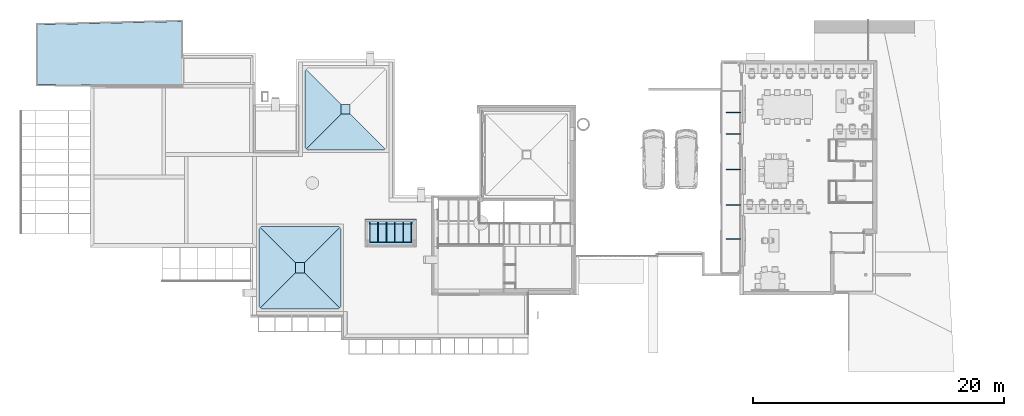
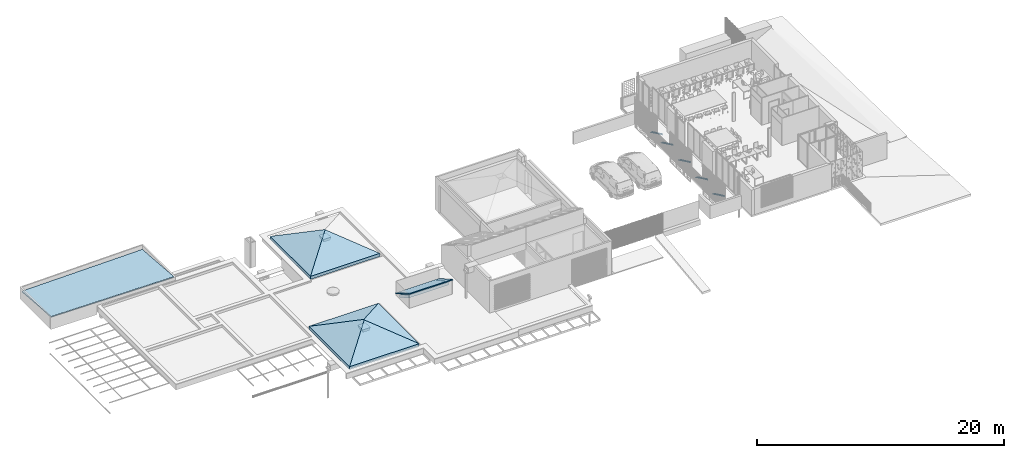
# One storey, part 21 of 51: 13 slabs, 5 beams.
"""IFC2X3 building model written with IfcOpenShell, lengths in metres."""

from ifc_helpers import new_model, entity, si_unit, converted_unit, derived_unit, direction, frame, origin, place, context, subcontext, project, spatial, faceted_brep, material, layer, layer_set, layer_usage, type_object, element, save


model = new_model("IFC2X3")

# Units and contexts
model_context = context("Model", 3, precision=1e-05, world=origin(), true_north=direction((6.123031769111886e-17, 1.0)))
body_context = subcontext(model_context, "Body", "Model", "MODEL_VIEW")
ifc_project = project(units=[si_unit("LENGTHUNIT", "METRE"), si_unit("AREAUNIT", "SQUARE_METRE"), si_unit("VOLUMEUNIT", "CUBIC_METRE"), converted_unit("PLANEANGLEUNIT", "DEGREE", entity("IfcRatioMeasure", 0.017453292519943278), si_unit("PLANEANGLEUNIT", "RADIAN"), dimensions=[0, 0, 0, 0, 0, 0, 0]), si_unit("MASSUNIT", "GRAM", prefix="KILO"), derived_unit("MASSDENSITYUNIT", [(si_unit("MASSUNIT", "GRAM", prefix="KILO"), 1), (si_unit("LENGTHUNIT", "METRE"), -3)]), derived_unit("MOMENTOFINERTIAUNIT", [(si_unit("LENGTHUNIT", "METRE"), 4)]), si_unit("TIMEUNIT", "SECOND"), si_unit("FREQUENCYUNIT", "HERTZ"), si_unit("THERMODYNAMICTEMPERATUREUNIT", "DEGREE_CELSIUS"), derived_unit("THERMALTRANSMITTANCEUNIT", [(si_unit("MASSUNIT", "GRAM", prefix="KILO"), 1), (si_unit("THERMODYNAMICTEMPERATUREUNIT", "KELVIN"), -1), (si_unit("TIMEUNIT", "SECOND"), -3)]), derived_unit("THERMALCONDUCTANCEUNIT", [(si_unit("MASSUNIT", "GRAM", prefix="KILO"), 1), (si_unit("LENGTHUNIT", "METRE"), 1), (si_unit("THERMODYNAMICTEMPERATUREUNIT", "KELVIN"), -1), (si_unit("TIMEUNIT", "SECOND"), -3)]), derived_unit("VOLUMETRICFLOWRATEUNIT", [(si_unit("LENGTHUNIT", "METRE"), 3), (si_unit("TIMEUNIT", "SECOND"), -1)]), derived_unit("MASSFLOWRATEUNIT", [(si_unit("MASSUNIT", "GRAM", prefix="KILO"), 1), (si_unit("TIMEUNIT", "SECOND"), -1)]), derived_unit("ROTATIONALFREQUENCYUNIT", [(si_unit("TIMEUNIT", "SECOND"), -1)]), si_unit("ELECTRICCURRENTUNIT", "AMPERE"), si_unit("ELECTRICVOLTAGEUNIT", "VOLT"), si_unit("POWERUNIT", "WATT"), si_unit("FORCEUNIT", "NEWTON", prefix="KILO"), si_unit("ILLUMINANCEUNIT", "LUX"), si_unit("LUMINOUSFLUXUNIT", "LUMEN"), si_unit("LUMINOUSINTENSITYUNIT", "CANDELA"), derived_unit("USERDEFINED", [(si_unit("MASSUNIT", "GRAM", prefix="KILO"), -1), (si_unit("LENGTHUNIT", "METRE"), -2), (si_unit("TIMEUNIT", "SECOND"), 3), (si_unit("LUMINOUSFLUXUNIT", "LUMEN"), 1)]), derived_unit("USERDEFINED", [(si_unit("MASSUNIT", "GRAM", prefix="KILO"), 1), (si_unit("LENGTHUNIT", "METRE"), 3), (si_unit("TIMEUNIT", "SECOND"), -3), (si_unit("ELECTRICCURRENTUNIT", "AMPERE"), -2)]), derived_unit("USERDEFINED", [(si_unit("LENGTHUNIT", "METRE"), 2), (si_unit("TIMEUNIT", "SECOND"), -2)]), derived_unit("SOUNDPOWERUNIT", [(si_unit("MASSUNIT", "GRAM", prefix="KILO"), 1), (si_unit("LENGTHUNIT", "METRE"), 2), (si_unit("TIMEUNIT", "SECOND"), -3)]), derived_unit("SOUNDPRESSUREUNIT", [(si_unit("MASSUNIT", "GRAM", prefix="KILO"), 1), (si_unit("LENGTHUNIT", "METRE"), -1), (si_unit("TIMEUNIT", "SECOND"), -2)]), derived_unit("LINEARVELOCITYUNIT", [(si_unit("LENGTHUNIT", "METRE"), 1), (si_unit("TIMEUNIT", "SECOND"), -1)]), si_unit("PRESSUREUNIT", "PASCAL"), derived_unit("USERDEFINED", [(si_unit("LENGTHUNIT", "METRE"), -2), (si_unit("MASSUNIT", "GRAM", prefix="KILO"), 1), (si_unit("TIMEUNIT", "SECOND"), -2)]), derived_unit("LINEARFORCEUNIT", [(si_unit("MASSUNIT", "GRAM", prefix="KILO"), 1), (si_unit("LENGTHUNIT", "METRE"), 1), (si_unit("TIMEUNIT", "SECOND"), -2), (si_unit("LENGTHUNIT", "METRE"), -1)]), derived_unit("PLANARFORCEUNIT", [(si_unit("MASSUNIT", "GRAM", prefix="KILO"), 1), (si_unit("LENGTHUNIT", "METRE"), 1), (si_unit("TIMEUNIT", "SECOND"), -2), (si_unit("LENGTHUNIT", "METRE"), -2)]), derived_unit("SPECIFICHEATCAPACITYUNIT", [(si_unit("LENGTHUNIT", "METRE"), 2), (si_unit("TIMEUNIT", "SECOND"), -2), (si_unit("THERMODYNAMICTEMPERATUREUNIT", "KELVIN"), -1)]), derived_unit("VAPORPERMEABILITYUNIT", [(si_unit("TIMEUNIT", "SECOND"), 1), (si_unit("LENGTHUNIT", "METRE"), -1)]), derived_unit("DYNAMICVISCOSITYUNIT", [(si_unit("MASSUNIT", "GRAM", prefix="KILO"), 1), (si_unit("LENGTHUNIT", "METRE"), -1), (si_unit("TIMEUNIT", "SECOND"), -1)]), derived_unit("THERMALEXPANSIONCOEFFICIENTUNIT", [(si_unit("THERMODYNAMICTEMPERATUREUNIT", "KELVIN"), -1)])], contexts=[model_context])

# Site, building, storey
site_placement = place(None, origin())
site = spatial("IfcSite", under=ifc_project, at=site_placement, Name="Default", CompositionType="ELEMENT")
building_placement = place(site_placement, origin())
building = spatial("IfcBuilding", under=site, at=building_placement, CompositionType="ELEMENT")
storey_placement = place(building_placement, frame((0.0, 0.0, 3.06)))
storey = spatial("IfcBuildingStorey", under=building, at=storey_placement, Name="ÉTAGE", CompositionType="ELEMENT", Elevation=3.06)

# Beams
ifc_material_1 = material(Name="Métal - Acier")
beam_type_1 = type_object("IfcBeamType", Name="Poutre-019 150874:Poutre-019 150874", PredefinedType="NOTDEFINED")
beam_1_placement = place(storey_placement, frame((140.32075116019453, 12.002209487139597, 0.38181997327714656)))
element("IfcBeam", 1, at=beam_1_placement, inside=storey, type_object=beam_type_1, material=ifc_material_1, Name="Poutre-019", ObjectType="Poutre-019 150874:Poutre-019 150874", context=body_context, shape_type="Brep", body=[
    faceted_brep([(0.19080229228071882, 0.026694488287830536, 0.6581800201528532), (0.19080229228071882, 0.05000008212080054, 0.6581800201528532), (1.1400012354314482, 0.05000008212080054, 0.11015975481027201), (1.1400012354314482, 0.026694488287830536, 0.11015975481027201), (0.009200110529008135, 0.026694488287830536, 0.6581800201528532), (1.1400012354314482, 0.026694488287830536, 0.005311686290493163), (0.009200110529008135, 0.05000008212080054, 0.6581800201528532), (1.1400012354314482, 0.05000008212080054, 0.005311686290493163), (0.0, 0.05000008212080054, 0.6581800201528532), (1.1400012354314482, 0.05000008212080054, 0.0), (0.0, 0.0, 0.6581800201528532), (1.1400012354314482, 0.0, 0.0), (0.009200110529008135, 0.0, 0.6581800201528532), (1.1400012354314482, 0.0, 0.005311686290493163), (0.009200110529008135, 0.023305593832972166, 0.6581800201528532), (1.1400012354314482, 0.023305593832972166, 0.005311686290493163), (0.19080229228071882, 0.023305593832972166, 0.6581800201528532), (1.1400012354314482, 0.023305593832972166, 0.11015975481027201), (0.19080229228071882, 0.0, 0.6581800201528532), (1.1400012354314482, 0.0, 0.11015975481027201), (0.20000240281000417, 0.0, 0.6581800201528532), (1.1400012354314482, 0.0, 0.11547144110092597), (0.20000240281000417, 0.0500000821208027, 0.6581800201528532), (1.1400012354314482, 0.05000008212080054, 0.11547144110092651)], [[[0, 1, 2, 3]], [[4, 0, 3, 5]], [[6, 4, 5, 7]], [[8, 6, 7, 9]], [[10, 8, 9, 11]], [[12, 10, 11, 13]], [[14, 12, 13, 15]], [[16, 14, 15, 17]], [[18, 16, 17, 19]], [[20, 18, 19, 21]], [[22, 20, 21, 23]], [[1, 22, 23, 2]], [[1, 0, 4, 6, 8, 10, 12, 14, 16, 18, 20, 22]], [[3, 2, 23, 21, 19, 17, 15, 13, 11, 9, 7, 5]]]),
])
beam_type_2 = type_object("IfcBeamType", Name="Poutre-019 150807:Poutre-019 150807", PredefinedType="NOTDEFINED")
beam_2_placement = place(storey_placement, frame((140.32075116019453, 14.712209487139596, 0.38181997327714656)))
element("IfcBeam", 2, at=beam_2_placement, inside=storey, type_object=beam_type_2, material=ifc_material_1, Name="Poutre-019", ObjectType="Poutre-019 150807:Poutre-019 150807", context=body_context, shape_type="Brep", body=[
    faceted_brep([(0.19080229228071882, 0.026694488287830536, 0.6581800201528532), (0.19080229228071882, 0.05000008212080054, 0.6581800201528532), (1.1400012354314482, 0.05000008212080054, 0.11015975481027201), (1.1400012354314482, 0.026694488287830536, 0.11015975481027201), (0.009200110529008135, 0.026694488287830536, 0.6581800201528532), (1.1400012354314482, 0.026694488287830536, 0.005311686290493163), (0.009200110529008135, 0.05000008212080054, 0.6581800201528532), (1.1400012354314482, 0.05000008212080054, 0.005311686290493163), (0.0, 0.05000008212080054, 0.6581800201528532), (1.1400012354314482, 0.05000008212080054, 0.0), (0.0, 0.0, 0.6581800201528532), (1.1400012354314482, 0.0, 0.0), (0.009200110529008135, 0.0, 0.6581800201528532), (1.1400012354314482, 0.0, 0.005311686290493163), (0.009200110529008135, 0.023305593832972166, 0.6581800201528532), (1.1400012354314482, 0.023305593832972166, 0.005311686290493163), (0.19080229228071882, 0.023305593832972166, 0.6581800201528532), (1.1400012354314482, 0.023305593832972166, 0.11015975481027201), (0.19080229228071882, 0.0, 0.6581800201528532), (1.1400012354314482, 0.0, 0.11015975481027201), (0.20000240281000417, 0.0, 0.6581800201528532), (1.1400012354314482, 0.0, 0.11547144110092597), (0.20000240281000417, 0.0500000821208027, 0.6581800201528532), (1.1400012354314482, 0.05000008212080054, 0.11547144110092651)], [[[0, 1, 2, 3]], [[4, 0, 3, 5]], [[6, 4, 5, 7]], [[8, 6, 7, 9]], [[10, 8, 9, 11]], [[12, 10, 11, 13]], [[14, 12, 13, 15]], [[16, 14, 15, 17]], [[18, 16, 17, 19]], [[20, 18, 19, 21]], [[22, 20, 21, 23]], [[1, 22, 23, 2]], [[1, 0, 4, 6, 8, 10, 12, 14, 16, 18, 20, 22]], [[3, 2, 23, 21, 19, 17, 15, 13, 11, 9, 7, 5]]]),
])
beam_type_3 = type_object("IfcBeamType", Name="Poutre-019 150740:Poutre-019 150740", PredefinedType="NOTDEFINED")
beam_3_placement = place(storey_placement, frame((140.32075116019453, 17.5372094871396, 0.38181997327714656)))
element("IfcBeam", 3, at=beam_3_placement, inside=storey, type_object=beam_type_3, material=ifc_material_1, Name="Poutre-019", ObjectType="Poutre-019 150740:Poutre-019 150740", context=body_context, shape_type="Brep", body=[
    faceted_brep([(0.19080229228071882, 0.026694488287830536, 0.6581800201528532), (0.19080229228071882, 0.05000008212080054, 0.6581800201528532), (1.1400012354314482, 0.05000008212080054, 0.11015975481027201), (1.1400012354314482, 0.026694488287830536, 0.11015975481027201), (0.009200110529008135, 0.026694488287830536, 0.6581800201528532), (1.1400012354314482, 0.026694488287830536, 0.005311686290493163), (0.009200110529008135, 0.05000008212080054, 0.6581800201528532), (1.1400012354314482, 0.05000008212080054, 0.005311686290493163), (0.0, 0.05000008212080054, 0.6581800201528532), (1.1400012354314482, 0.05000008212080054, 0.0), (0.0, 0.0, 0.6581800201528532), (1.1400012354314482, 0.0, 0.0), (0.009200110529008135, 0.0, 0.6581800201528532), (1.1400012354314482, 0.0, 0.005311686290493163), (0.009200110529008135, 0.023305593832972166, 0.6581800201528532), (1.1400012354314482, 0.023305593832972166, 0.005311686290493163), (0.19080229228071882, 0.023305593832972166, 0.6581800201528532), (1.1400012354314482, 0.023305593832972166, 0.11015975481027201), (0.19080229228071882, 0.0, 0.6581800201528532), (1.1400012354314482, 0.0, 0.11015975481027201), (0.20000240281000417, 0.0, 0.6581800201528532), (1.1400012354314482, 0.0, 0.11547144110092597), (0.20000240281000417, 0.0500000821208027, 0.6581800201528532), (1.1400012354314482, 0.05000008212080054, 0.11547144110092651)], [[[0, 1, 2, 3]], [[4, 0, 3, 5]], [[6, 4, 5, 7]], [[8, 6, 7, 9]], [[10, 8, 9, 11]], [[12, 10, 11, 13]], [[14, 12, 13, 15]], [[16, 14, 15, 17]], [[18, 16, 17, 19]], [[20, 18, 19, 21]], [[22, 20, 21, 23]], [[1, 22, 23, 2]], [[1, 0, 4, 6, 8, 10, 12, 14, 16, 18, 20, 22]], [[3, 2, 23, 21, 19, 17, 15, 13, 11, 9, 7, 5]]]),
])
beam_type_4 = type_object("IfcBeamType", Name="Poutre-019 150673:Poutre-019 150673", PredefinedType="NOTDEFINED")
beam_4_placement = place(storey_placement, frame((140.32075116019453, 22.0722094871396, 0.38181997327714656)))
element("IfcBeam", 4, at=beam_4_placement, inside=storey, type_object=beam_type_4, material=ifc_material_1, Name="Poutre-019", ObjectType="Poutre-019 150673:Poutre-019 150673", context=body_context, shape_type="Brep", body=[
    faceted_brep([(0.19080229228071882, 0.0266944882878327, 0.6581800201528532), (0.19080229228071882, 0.0500000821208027, 0.6581800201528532), (1.1400012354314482, 0.0500000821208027, 0.11015975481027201), (1.1400012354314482, 0.0266944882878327, 0.11015975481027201), (0.009200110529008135, 0.0266944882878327, 0.6581800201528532), (1.1400012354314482, 0.0266944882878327, 0.005311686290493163), (0.009200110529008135, 0.0500000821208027, 0.6581800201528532), (1.1400012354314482, 0.0500000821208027, 0.005311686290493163), (0.0, 0.0500000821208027, 0.6581800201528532), (1.1400012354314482, 0.0500000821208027, 0.0), (0.0, 0.0, 0.6581800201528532), (1.1400012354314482, 0.0, 0.0), (0.009200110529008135, 0.0, 0.6581800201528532), (1.1400012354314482, 0.0, 0.005311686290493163), (0.009200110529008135, 0.023305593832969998, 0.6581800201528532), (1.1400012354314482, 0.023305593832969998, 0.005311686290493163), (0.19080229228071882, 0.023305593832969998, 0.6581800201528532), (1.1400012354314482, 0.023305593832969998, 0.11015975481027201), (0.19080229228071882, 0.0, 0.6581800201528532), (1.1400012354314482, 0.0, 0.11015975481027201), (0.20000240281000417, 0.0, 0.6581800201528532), (1.1400012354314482, 0.0, 0.11547144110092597), (0.20000240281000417, 0.05000008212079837, 0.6581800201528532), (1.1400012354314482, 0.0500000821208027, 0.11547144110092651)], [[[0, 1, 2, 3]], [[4, 0, 3, 5]], [[6, 4, 5, 7]], [[8, 6, 7, 9]], [[10, 8, 9, 11]], [[12, 10, 11, 13]], [[14, 12, 13, 15]], [[16, 14, 15, 17]], [[18, 16, 17, 19]], [[20, 18, 19, 21]], [[22, 20, 21, 23]], [[1, 22, 23, 2]], [[1, 0, 4, 6, 8, 10, 12, 14, 16, 18, 20, 22]], [[3, 2, 23, 21, 19, 17, 15, 13, 11, 9, 7, 5]]]),
])
beam_type_5 = type_object("IfcBeamType", Name="Poutre-019 150508:Poutre-019 150508", PredefinedType="NOTDEFINED")
beam_5_placement = place(storey_placement, frame((140.32075116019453, 20.362209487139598, 0.38181997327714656)))
element("IfcBeam", 5, at=beam_5_placement, inside=storey, type_object=beam_type_5, material=ifc_material_1, Name="Poutre-019", ObjectType="Poutre-019 150508:Poutre-019 150508", context=body_context, shape_type="Brep", body=[
    faceted_brep([(0.19080229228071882, 0.0266944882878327, 0.6581800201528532), (0.19080229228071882, 0.0500000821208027, 0.6581800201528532), (1.1400012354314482, 0.0500000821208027, 0.11015975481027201), (1.1400012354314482, 0.0266944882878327, 0.11015975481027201), (0.009200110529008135, 0.0266944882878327, 0.6581800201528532), (1.1400012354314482, 0.0266944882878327, 0.005311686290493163), (0.009200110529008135, 0.0500000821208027, 0.6581800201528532), (1.1400012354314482, 0.0500000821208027, 0.005311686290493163), (0.0, 0.0500000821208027, 0.6581800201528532), (1.1400012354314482, 0.0500000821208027, 0.0), (0.0, 0.0, 0.6581800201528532), (1.1400012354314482, 0.0, 0.0), (0.009200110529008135, 0.0, 0.6581800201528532), (1.1400012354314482, 0.0, 0.005311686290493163), (0.009200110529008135, 0.023305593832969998, 0.6581800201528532), (1.1400012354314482, 0.023305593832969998, 0.005311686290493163), (0.19080229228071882, 0.023305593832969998, 0.6581800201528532), (1.1400012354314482, 0.023305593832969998, 0.11015975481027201), (0.19080229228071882, 0.0, 0.6581800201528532), (1.1400012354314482, 0.0, 0.11015975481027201), (0.20000240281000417, 0.0, 0.6581800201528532), (1.1400012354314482, 0.0, 0.11547144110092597), (0.20000240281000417, 0.05000008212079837, 0.6581800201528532), (1.1400012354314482, 0.0500000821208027, 0.11547144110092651)], [[[0, 1, 2, 3]], [[4, 0, 3, 5]], [[6, 4, 5, 7]], [[8, 6, 7, 9]], [[10, 8, 9, 11]], [[12, 10, 11, 13]], [[14, 12, 13, 15]], [[16, 14, 15, 17]], [[18, 16, 17, 19]], [[20, 18, 19, 21]], [[22, 20, 21, 23]], [[1, 22, 23, 2]], [[1, 0, 4, 6, 8, 10, 12, 14, 16, 18, 20, 22]], [[3, 2, 23, 21, 19, 17, 15, 13, 11, 9, 7, 5]]]),
])

# Slabs
ifc_material_2 = material(Name="Isolation - Fibre de verre")
slab_type_1 = type_object("IfcSlabType", Name="Toit-01", PredefinedType="ROOF", material=ifc_material_2)
slab_1_placement = place(storey_placement, frame((109.69122580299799, 21.987683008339, 0.8899999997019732)))
element("IfcSlab", 6, at=slab_1_placement, inside=storey, type_object=slab_type_1, Name="Toit-01 442954:Toit-01 442954", ObjectType="Toit-01 442954:Toit-01 442954", PredefinedType="ROOF", context=body_context, shape_type="Brep", body=[
    faceted_brep([(0.0, 0.0, 0.3200000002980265), (0.7090529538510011, 0.0, 0.3200000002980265), (0.7090529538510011, 0.7390529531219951, 0.3200000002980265), (0.0, 0.7390529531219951, 0.3200000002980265), (0.06646862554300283, 0.0664686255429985, 0.0200000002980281), (0.642584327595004, 0.0664686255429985, 0.0200000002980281), (0.6425843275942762, 0.6725843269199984, 0.020000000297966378), (0.06646862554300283, 0.6725843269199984, 0.0200000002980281), (0.07089986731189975, 0.6681530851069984, 0.0), (0.07089986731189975, 0.07089986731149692, 0.0), (0.6381530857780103, 0.6681530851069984, 0.0), (0.6381530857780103, 0.07089986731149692, 0.0)], [[[0, 1, 2, 3]], [[0, 4, 5, 1]], [[1, 5, 6, 2]], [[2, 6, 7, 3]], [[3, 7, 4, 0]], [[4, 7, 6, 5]], [[7, 8, 9, 4]], [[6, 10, 8, 7]], [[8, 10, 11, 9]], [[4, 9, 11, 5]], [[4, 5, 6, 7]], [[5, 11, 10, 6]]]),
])
slab_type_2 = type_object("IfcSlabType", Name="Toit-01", PredefinedType="ROOF", material=ifc_material_2)
slab_2_placement = place(storey_placement, frame((106.051225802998, 9.347683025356, 0.8899999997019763)))
element("IfcSlab", 7, at=slab_2_placement, inside=storey, type_object=slab_type_2, Name="Toit-01 448454:Toit-01 448454", ObjectType="Toit-01 448454:Toit-01 448454", PredefinedType="ROOF", context=body_context, shape_type="Brep", body=[
    faceted_brep([(0.0, 0.0, 0.3200000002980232), (0.7290529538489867, 0.0, 0.3200000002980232), (0.7290529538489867, 0.8090529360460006, 0.3200000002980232), (0.0, 0.8090529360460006, 0.3200000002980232), (0.06646862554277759, 0.06646862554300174, 0.02000000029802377), (0.662584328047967, 0.06646862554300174, 0.02000000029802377), (0.662584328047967, 0.7425843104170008, 0.020000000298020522), (0.06646862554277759, 0.7425843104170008, 0.02000000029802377), (0.07089986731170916, 0.7381530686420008, 0.0), (0.07089986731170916, 0.07089986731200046, 0.0), (0.6581530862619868, 0.7381530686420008, 0.0), (0.6581530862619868, 0.07089986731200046, 0.0)], [[[0, 1, 2, 3]], [[0, 4, 5, 1]], [[1, 5, 6, 2]], [[2, 6, 7, 3]], [[3, 7, 4, 0]], [[4, 7, 6, 5]], [[7, 8, 9, 4]], [[6, 10, 8, 7]], [[8, 10, 11, 9]], [[4, 9, 11, 5]], [[4, 5, 6, 7]], [[5, 11, 10, 6]]]),
])
ifc_material_3 = material(Name="Toit - Tuiles françaises rouges")
ifc_layer_1 = layer(ifc_material_3, 0.271924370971)
ifc_layer_set_1 = layer_set([ifc_layer_1], Name="Toit de base:Toit-01:1534")
ifc_layer_usage_1 = layer_usage(ifc_layer_set_1, "AXIS3", "NEGATIVE", 0.0)
slab_type_3 = type_object("IfcSlabType", Name="Toit-01", PredefinedType="ROOF")
slab_3_placement = place(storey_placement, frame((106.80075227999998, 19.09720948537, 0.03999999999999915)))
element("IfcSlab", 8, at=slab_3_placement, inside=storey, type_object=slab_type_3, material=ifc_layer_usage_1, Name="Toit de base:Toit-01:1534", ObjectType="Toit de base:Toit-01:1534", PredefinedType="ROOF", context=body_context, shape_type="Brep", body=[
    faceted_brep([(0.0, 0.0, 0.0), (0.0, 6.519999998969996, 0.0), (3.244999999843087, 3.274999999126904, 1.5121699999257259), (3.244999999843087, 3.2449999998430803, 1.5121699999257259), (0.0, 6.519999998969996, 0.3000000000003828), (0.0, 0.0, 0.3000000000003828), (3.244999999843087, 3.2449999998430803, 1.812169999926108), (3.244999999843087, 3.274999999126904, 1.812169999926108)], [[[0, 1, 2, 3]], [[4, 5, 6, 7]], [[5, 4, 1, 0]], [[6, 5, 0, 3]], [[7, 6, 3, 2]], [[4, 7, 2, 1]]]),
])
slab_4_placement = place(storey_placement, frame((106.41575226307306, 6.457209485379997, 0.03999999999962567)))
element("IfcSlab", 9, at=slab_4_placement, inside=storey, type_object=slab_type_3, material=ifc_layer_usage_1, Name="Toit de base:Toit-01:1534", ObjectType="Toit de base:Toit-01:1534", PredefinedType="ROOF", context=body_context, shape_type="Brep", body=[
    faceted_brep([(0.0, 3.33499998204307, 1.5168300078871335), (3.2550000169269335, 6.589999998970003, 0.0), (3.2550000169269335, 0.0, 0.0), (0.0, 3.2550000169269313, 1.5168300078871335), (3.2550000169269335, 6.589999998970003, 0.30000000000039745), (0.0, 3.334999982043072, 1.8168300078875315), (0.0, 3.2550000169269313, 1.8168300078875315), (3.2550000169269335, 0.0, 0.30000000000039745)], [[[0, 1, 2, 3]], [[4, 5, 6, 7]], [[5, 4, 1, 0]], [[6, 5, 0, 3]], [[7, 6, 3, 2]], [[4, 7, 2, 1]]]),
])
slab_5_placement = place(storey_placement, frame((103.16075228, 6.457209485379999, 0.040000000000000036)))
element("IfcSlab", 10, at=slab_5_placement, inside=storey, type_object=slab_type_3, material=ifc_layer_usage_1, Name="Toit de base:Toit-01:1534", ObjectType="Toit de base:Toit-01:1534", PredefinedType="ROOF", context=body_context, shape_type="Brep", body=[
    faceted_brep([(0.0, 0.0, 0.0), (0.0, 6.589999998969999, 0.0), (3.255000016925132, 3.334999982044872, 1.5168300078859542), (3.255000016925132, 3.255000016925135, 1.5168300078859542), (0.0, 6.589999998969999, 0.30000000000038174), (0.0, 0.0, 0.30000000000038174), (3.255000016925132, 3.255000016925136, 1.816830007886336), (3.255000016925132, 3.334999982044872, 1.816830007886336)], [[[0, 1, 2, 3]], [[4, 5, 6, 7]], [[5, 4, 1, 0]], [[6, 5, 0, 3]], [[7, 6, 3, 2]], [[4, 7, 2, 1]]]),
])
slab_6_placement = place(storey_placement, frame((106.80075227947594, 19.0972094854, 0.03999999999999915)))
element("IfcSlab", 11, at=slab_6_placement, inside=storey, type_object=slab_type_3, material=ifc_layer_usage_1, Name="Toit de base:Toit-01:1534", ObjectType="Toit de base:Toit-01:1534", PredefinedType="ROOF", context=body_context, shape_type="Brep", body=[
    faceted_brep([(3.2449999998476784, 3.244999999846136, 1.5121699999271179), (6.489999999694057, 0.0, 0.0), (0.0, 0.0, 0.0), (6.489999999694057, 0.0, 0.30000000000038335), (3.2449999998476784, 3.244999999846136, 1.8121699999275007), (0.0, 0.0, 0.30000000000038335)], [[[0, 1, 2]], [[3, 4, 5]], [[4, 3, 1, 0]], [[5, 4, 0, 2]], [[3, 5, 2, 1]]]),
])
slab_7_placement = place(storey_placement, frame((103.16075228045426, 6.4572095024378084, 0.04000000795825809)))
element("IfcSlab", 12, at=slab_7_placement, inside=storey, type_object=slab_type_3, material=ifc_layer_usage_1, Name="Toit de base:Toit-01:1534", ObjectType="Toit de base:Toit-01:1534", PredefinedType="ROOF", context=body_context, shape_type="Brep", body=[
    faceted_brep([(3.254999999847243, 3.25499999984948, 1.5168299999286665), (6.509999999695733, 0.0, 0.0), (0.0, 0.0, 0.0), (6.509999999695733, 0.0, 0.30000000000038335), (3.254999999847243, 3.254999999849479, 1.8168299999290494), (0.0, 0.0, 0.3000000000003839)], [[[0, 1, 2]], [[3, 4, 5]], [[4, 3, 1, 0]], [[5, 4, 0, 2]], [[3, 5, 2, 1]]]),
])
slab_8_placement = place(storey_placement, frame((103.16075228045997, 9.79220946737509, 0.04000000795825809)))
element("IfcSlab", 13, at=slab_8_placement, inside=storey, type_object=slab_type_3, material=ifc_layer_usage_1, Name="Toit de base:Toit-01:1534", ObjectType="Toit de base:Toit-01:1534", PredefinedType="ROOF", context=body_context, shape_type="Brep", body=[
    faceted_brep([(0.0, 3.2549999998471, 0.0), (6.509999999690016, 3.2549999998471, 0.0), (3.25499999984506, 0.0, 1.5168299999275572), (6.509999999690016, 3.2549999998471, 0.3000000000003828), (0.0, 3.2549999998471, 0.3000000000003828), (3.25499999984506, 0.0, 1.8168299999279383)], [[[0, 1, 2]], [[3, 4, 5]], [[4, 3, 1, 0]], [[5, 4, 0, 2]], [[3, 5, 2, 1]]]),
])
ifc_material_4 = material(Name="Métal - Fer")
ifc_layer_2 = layer(ifc_material_4, 0.09975589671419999)
ifc_layer_set_2 = layer_set([ifc_layer_2], Name="Toit de base:Toit-01:1536")
ifc_layer_usage_2 = layer_usage(ifc_layer_set_2, "AXIS3", "NEGATIVE", 0.0)
slab_type_4 = type_object("IfcSlabType", Name="Toit-01", PredefinedType="ROOF")
slab_9_placement = place(storey_placement, frame((85.56073470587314, 24.207581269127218, 0.13822534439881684)))
element("IfcSlab", 14, at=slab_9_placement, inside=storey, type_object=slab_type_4, material=ifc_layer_usage_2, Name="Toit de base:Toit-01:1536", ObjectType="Toit de base:Toit-01:1536", PredefinedType="ROOF", context=body_context, shape_type="Brep", body=[
    faceted_brep([(0.0, 0.110910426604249, 0.4017668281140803), (0.0, 4.876899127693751, 0.0205061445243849), (11.420017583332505, 5.133238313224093, 0.0), (11.420017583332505, 0.0, 0.41063923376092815), (0.0, 4.876899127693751, 0.120580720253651), (0.0, 0.110910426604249, 0.5018414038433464), (11.420017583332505, 0.0, 0.5107138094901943), (11.420017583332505, 5.133238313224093, 0.10007457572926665)], [[[0, 1, 2, 3]], [[4, 5, 6, 7]], [[5, 4, 1, 0]], [[6, 5, 0, 3]], [[7, 6, 3, 2]], [[4, 7, 2, 1]]]),
])
ifc_material_5 = material(Name="Bois - Pin granuleux horizontal")
ifc_layer_3 = layer(ifc_material_5, 0.08694124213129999)
ifc_layer_set_3 = layer_set([ifc_layer_3], Name="Toit de base:Toit-01:1551")
ifc_layer_usage_3 = layer_usage(ifc_layer_set_3, "AXIS3", "NEGATIVE", 0.0)
slab_type_5 = type_object("IfcSlabType", Name="Toit-01", PredefinedType="ROOF")
slab_10_placement = place(storey_placement, frame((111.93075227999, 11.747209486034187, 0.2600000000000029)))
element("IfcSlab", 15, at=slab_10_placement, inside=storey, type_object=slab_type_5, material=ifc_layer_usage_3, Name="Toit de base:Toit-01:1551", ObjectType="Toit de base:Toit-01:1551", PredefinedType="ROOF", context=body_context, shape_type="Brep", body=[
    faceted_brep([(0.0, 0.0, 0.9547440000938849), (0.0, 1.6800000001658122, 0.0), (0.059999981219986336, 1.6800000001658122, 0.0), (0.059999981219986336, 0.05999998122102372, 0.9206460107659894), (0.6660000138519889, 0.05999998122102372, 0.9206460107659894), (0.6660000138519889, 1.6800000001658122, 0.0), (0.7259999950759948, 1.6800000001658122, 0.0), (0.7259999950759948, 0.05999998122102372, 0.9206460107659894), (1.3319999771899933, 0.05999998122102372, 0.9206460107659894), (1.3319999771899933, 1.6800000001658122, 0.0), (1.3920000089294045, 1.6800000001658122, 0.0), (1.3920000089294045, 0.05999998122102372, 0.9206460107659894), (1.997999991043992, 0.05999998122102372, 0.9206460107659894), (1.997999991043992, 1.6800000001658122, 0.0), (2.0580000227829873, 1.6800000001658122, 0.0), (2.0580000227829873, 0.05999998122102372, 0.9206460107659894), (2.6640000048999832, 0.05999998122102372, 0.9206460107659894), (2.6640000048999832, 1.6800000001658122, 0.0), (2.723999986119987, 1.6800000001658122, 0.0), (2.723999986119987, 0.05999998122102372, 0.9206460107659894), (3.330000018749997, 0.05999998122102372, 0.9206460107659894), (3.330000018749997, 1.6800000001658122, 0.0), (3.3899999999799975, 1.6800000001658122, 0.0), (3.3899999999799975, 0.0, 0.9547440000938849), (0.0, 1.6800000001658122, 0.09999999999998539), (0.0, 0.0, 1.0547440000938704), (3.3899999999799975, 0.0, 1.0547440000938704), (3.3899999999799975, 1.6800000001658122, 0.09999999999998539), (3.330000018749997, 1.6800000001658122, 0.09999999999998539), (3.330000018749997, 0.05999998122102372, 1.0206460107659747), (2.723999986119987, 0.05999998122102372, 1.0206460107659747), (2.723999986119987, 1.6800000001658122, 0.09999999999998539), (2.6640000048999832, 1.6800000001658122, 0.09999999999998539), (2.6640000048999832, 0.05999998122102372, 1.0206460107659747), (2.0580000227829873, 0.05999998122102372, 1.0206460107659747), (2.0580000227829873, 1.6800000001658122, 0.09999999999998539), (1.997999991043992, 1.6800000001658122, 0.09999999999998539), (1.997999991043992, 0.05999998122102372, 1.0206460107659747), (1.3920000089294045, 0.05999998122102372, 1.0206460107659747), (1.3920000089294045, 1.6800000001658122, 0.09999999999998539), (1.3319999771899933, 1.6800000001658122, 0.09999999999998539), (1.3319999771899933, 0.05999998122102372, 1.0206460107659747), (0.7259999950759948, 0.05999998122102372, 1.0206460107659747), (0.7259999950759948, 1.6800000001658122, 0.09999999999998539), (0.6660000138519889, 1.6800000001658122, 0.09999999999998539), (0.6660000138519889, 0.05999998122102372, 1.0206460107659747), (0.059999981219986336, 0.05999998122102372, 1.0206460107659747), (0.059999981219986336, 1.6800000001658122, 0.09999999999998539)], [[[0, 1, 2, 3, 4, 5, 6, 7, 8, 9, 10, 11, 12, 13, 14, 15, 16, 17, 18, 19, 20, 21, 22, 23]], [[24, 25, 26, 27, 28, 29, 30, 31, 32, 33, 34, 35, 36, 37, 38, 39, 40, 41, 42, 43, 44, 45, 46, 47]], [[25, 24, 1, 0]], [[26, 25, 0, 23]], [[27, 26, 23, 22]], [[28, 27, 22, 21]], [[29, 28, 21, 20]], [[30, 29, 20, 19]], [[31, 30, 19, 18]], [[32, 31, 18, 17]], [[33, 32, 17, 16]], [[34, 33, 16, 15]], [[35, 34, 15, 14]], [[36, 35, 14, 13]], [[37, 36, 13, 12]], [[38, 37, 12, 11]], [[39, 38, 11, 10]], [[40, 39, 10, 9]], [[41, 40, 9, 8]], [[42, 41, 8, 7]], [[43, 42, 7, 6]], [[44, 43, 6, 5]], [[45, 44, 5, 4]], [[46, 45, 4, 3]], [[47, 46, 3, 2]], [[24, 47, 2, 1]]]),
])
ifc_layer_4 = layer(ifc_material_4, 0.08694124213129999)
ifc_layer_set_4 = layer_set([ifc_layer_4], Name="Toit de base:Toit-01:1566")
ifc_layer_usage_4 = layer_usage(ifc_layer_set_4, "AXIS3", "NEGATIVE", 0.0)
slab_type_6 = type_object("IfcSlabType", Name="Toit-01", PredefinedType="ROOF")
slab_11_placement = place(storey_placement, frame((111.58075227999, 11.397209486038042, 0.24436764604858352)))
element("IfcSlab", 16, at=slab_11_placement, inside=storey, type_object=slab_type_6, material=ifc_layer_usage_4, Name="Toit de base:Toit-01:1566", ObjectType="Toit de base:Toit-01:1566", PredefinedType="ROOF", context=body_context, shape_type="Brep", body=[
    faceted_brep([(0.0, 2.233470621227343, 0.0), (4.089999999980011, 2.233470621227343, 0.0), (4.089999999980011, 0.0, 1.269281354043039), (0.0, 0.0, 1.269281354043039), (4.089999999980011, 2.233470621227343, 0.09999999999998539), (0.0, 2.233470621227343, 0.09999999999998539), (0.0, 0.0, 1.3692813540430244), (4.089999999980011, 0.0, 1.3692813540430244)], [[[0, 1, 2, 3]], [[4, 5, 6, 7]], [[5, 4, 1, 0]], [[6, 5, 0, 3]], [[7, 6, 3, 2]], [[4, 7, 2, 1]]]),
])
ifc_material_6 = material(Name="Métal - Zinc")
ifc_layer_5 = layer(ifc_material_6, 0.0347764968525)
ifc_layer_set_5 = layer_set([ifc_layer_5], Name="Toit de base:Toit-01:1589")
ifc_layer_usage_5 = layer_usage(ifc_layer_set_5, "AXIS3", "NEGATIVE", 0.0)
slab_type_7 = type_object("IfcSlabType", Name="Toit-01", PredefinedType="ROOF")
slab_12_placement = place(storey_placement, frame((111.74075228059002, 11.557209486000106, 0.375255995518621)))
element("IfcSlab", 17, at=slab_12_placement, inside=storey, type_object=slab_type_7, material=ifc_layer_usage_5, Name="Toit de base:Toit-01:1589", ObjectType="Toit de base:Toit-01:1589", PredefinedType="ROOF", context=body_context, shape_type="Brep", body=[
    faceted_brep([(0.0, 0.0, 1.06272100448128), (0.0, 1.8700000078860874, 0.0), (0.2100000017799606, 1.8700000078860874, 0.0), (0.2100000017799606, 0.21000000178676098, 0.9433780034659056), (3.559999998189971, 0.21000000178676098, 0.9433780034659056), (3.559999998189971, 1.8700000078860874, 0.0), (3.7699999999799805, 1.8700000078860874, 0.0), (3.7699999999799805, 0.0, 1.06272100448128), (0.0, 1.8700000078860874, 0.039999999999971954), (0.0, 0.0, 1.1027210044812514), (3.7699999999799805, 0.0, 1.1027210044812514), (3.7699999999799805, 1.8700000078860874, 0.039999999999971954), (3.559999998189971, 1.8700000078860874, 0.039999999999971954), (3.559999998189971, 0.21000000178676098, 0.983378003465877), (0.2100000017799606, 0.21000000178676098, 0.983378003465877), (0.2100000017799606, 1.8700000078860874, 0.039999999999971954)], [[[0, 1, 2, 3, 4, 5, 6, 7]], [[8, 9, 10, 11, 12, 13, 14, 15]], [[9, 8, 1, 0]], [[10, 9, 0, 7]], [[11, 10, 7, 6]], [[12, 11, 6, 5]], [[13, 12, 5, 4]], [[14, 13, 4, 3]], [[15, 14, 3, 2]], [[8, 15, 2, 1]]]),
])
ifc_layer_6 = layer(ifc_material_2, 0.260823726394)
ifc_layer_set_6 = layer_set([ifc_layer_6], Name="Toit de base:Toit-01:1721")
ifc_layer_usage_6 = layer_usage(ifc_layer_set_6, "AXIS3", "NEGATIVE", 0.0)
slab_type_8 = type_object("IfcSlabType", Name="Toit-01", PredefinedType="ROOF")
slab_13_placement = place(storey_placement, frame((111.76075227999, 11.747209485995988, 0.06797700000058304)))
element("IfcSlab", 18, at=slab_13_placement, inside=storey, type_object=slab_type_8, material=ifc_layer_usage_6, Name="Toit de base:Toit-01:1721", ObjectType="Toit de base:Toit-01:1721", PredefinedType="ROOF", context=body_context, shape_type="Brep", body=[
    faceted_brep([(0.0, 1.4900000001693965, 0.0), (3.7299999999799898, 1.4900000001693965, 0.0), (3.7299999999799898, 0.0, 0.8467670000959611), (0.0, 0.0, 0.8467670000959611), (3.7299999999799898, 1.4900000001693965, 0.3000000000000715), (0.0, 1.4900000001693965, 0.3000000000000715), (0.0, 0.0, 1.1467670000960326), (3.7299999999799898, 0.0, 1.1467670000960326)], [[[0, 1, 2, 3]], [[4, 5, 6, 7]], [[5, 4, 1, 0]], [[6, 5, 0, 3]], [[7, 6, 3, 2]], [[4, 7, 2, 1]]]),
])

save(model, "model.ifc")
